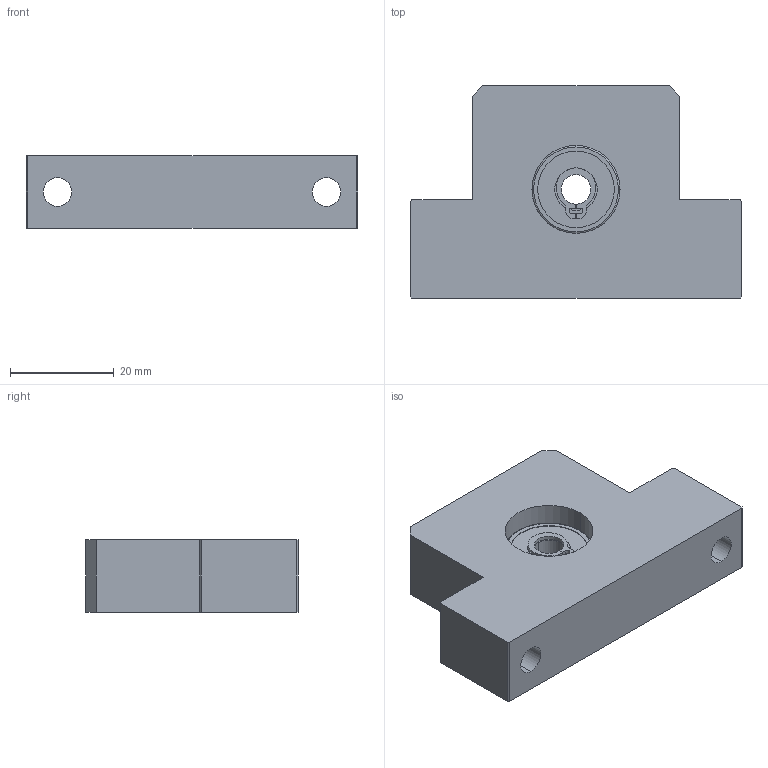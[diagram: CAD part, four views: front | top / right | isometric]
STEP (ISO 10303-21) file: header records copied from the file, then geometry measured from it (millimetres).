
FILE_DESCRIPTION (( 'STEP AP214' ), '1' );
FILE_NAME ('F-SBU-8.STEP', '2023-04-10T07:30:15', ( '' ), ( '' ), 'SwSTEP 2.0', 'SolidWorks 2021', '' );
FILE_SCHEMA (( 'AUTOMOTIVE_DESIGN' ));
Length unit declared in the file: millimetre
Products named in the file (9): 606ZZ; F-SBU-8; STWN6; 606ZZ Ball; 606ZZ Inner Ring; 606ZZ Shield2; 606ZZ Outer Ring; F-SBU-8 BODY; 606ZZ Shield1
Assembly tree (15 placements, depth 3):
  F-SBU-8
    F-SBU-8 BODY
    606ZZ
      606ZZ Shield2
      606ZZ Ball  x8
      606ZZ Shield1
      606ZZ Inner Ring
      606ZZ Outer Ring
    STWN6
Bounding box: 64 x 41 x 14 mm (x, y, z)
Volume: 26039.5 mm3; surface area: 9910.1 mm2
Topology: 14 solids, 14 shells, 115 faces, 291 edges, 192 vertices
Faces by surface type: cylinder 43, plane 42, sphere 16, torus 14
Entity records: 3367 total; most frequent: DIRECTION 589, CARTESIAN_POINT 511, ORIENTED_EDGE 474, EDGE_CURVE 237, AXIS2_PLACEMENT_3D 232, VERTEX_POINT 154, LINE 125, VECTOR 125
